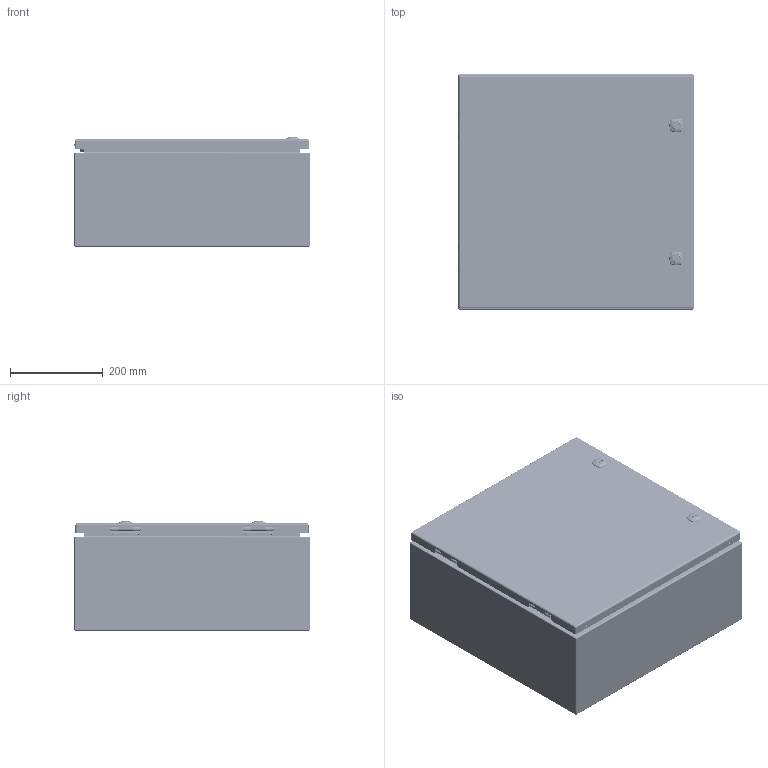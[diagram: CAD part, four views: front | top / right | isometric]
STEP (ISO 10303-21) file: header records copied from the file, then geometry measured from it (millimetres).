
FILE_DESCRIPTION(/* description */ ('5412ES 20" x 20" x 8" Assembly'),/* implementation_level */ '2;1');
FILE_NAME(/* name */ '5412ESB202008.stp',/* time_stamp */ '2024-01-18T09:46:41-05:00',/* author */ ('BoxCad'),/* organization */ (''),/* preprocessor_version */ 'ST-DEVELOPER v20',/* originating_system */ 'Autodesk Inventor 2024',/* authorisation */ '');
FILE_SCHEMA (('AUTOMOTIVE_DESIGN { 1 0 10303 214 3 1 1 }'));
Products named in the file (43): 5412ESB202008; 5412ESB202008B; 5412ESB202008B-P; STK-Q-16005; STUD_M6 x 16mm; 5412ESB202008C; 5412ESB202008C-P; 5412ESB202008G; STK-K-09800; STK-K-09800-2; STK-Q-33014; STK-Q-90398; STK-Q-40095; STK-Q-63410; STK-Q-16055; STK-Q-46020-20; STK-Q-07220-1; STK-Q-07220-2; STK-Q-07220-3; STK-Q-07220-4; STK-Q-07220-A; STK-Q-07220-B; STK-P-03820R; STK-S-00100; STK-K-12500; STK-Q-78111; STK-Q-78141; STK-Q-78120; STK-Q-78145; STK-Q-03200; STK-Q-78160; STK-Q-90390; STK-Q-78111-R; STK-Q-04050-08-1; STK-Q-04050-08-2; STK-Q-04050-08-P; STK-Q-04051-N; STK-A-01800; 5412ESB202008IPK; STK-Q-07610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
Assembly tree (73 placements, depth 4):
  5412ESB202008
    5412ESB202008B
      5412ESB202008B-P
      STK-Q-16005  x4
      STK-P-03820R
      STUD_M6 x 16mm
    5412ESB202008C
      5412ESB202008C-P
      5412ESB202008G
      STK-K-09800
        STK-Q-33014
        STK-Q-90398
        STK-Q-40095  x2
        STK-Q-63410  x2
      STK-K-09800-2
        STK-Q-33014
        STK-Q-90398
        STK-Q-40095  x2
        STK-Q-63410  x2
      STK-Q-16055  x4
      STK-Q-46020-20  x2
      STK-Q-07220-1
        STK-Q-07220-A
        STK-Q-07220-B
      STK-Q-07220-2
        STK-Q-07220-A
        STK-Q-07220-B
      STK-Q-07220-3
        STK-Q-07220-A
        STK-Q-07220-B
      STK-Q-07220-4
        STK-Q-07220-A
        STK-Q-07220-B
      STK-P-03820R
      STK-K-12500  x2
        STK-Q-78111
        STK-Q-78141
        STK-Q-78120
        STK-Q-78145
        STK-Q-03200
        STK-Q-78160
        STK-Q-90390
        STK-Q-78111-R
      STK-S-00100
    STK-Q-04050-08-1
      STK-Q-04050-08-P
      STK-Q-04051-N
    STK-Q-04050-08-2
      STK-Q-04050-08-P
      STK-Q-04051-N
    STK-A-01800
    5412ESB202008IPK
      STK-Q-07610  x4
      STK-Q-07310  x4
    881SP2020G
      881SP2020G-P
Bounding box: 508.07 x 508 x 236.47 mm (x, y, z)
Volume: 2139412.6 mm3; surface area: 2702542.1 mm2
Topology: 64 solids, 64 shells, 9692 faces, 25609 edges, 16056 vertices
Faces by surface type: bspline 3330, plane 2775, cylinder 2552, torus 679, sphere 220, cone 136
Full cylindrical faces by diameter (mm): 0 x1, 0.75 x9, 0.762 x9, 1 x8, 1.1 x8, 3.2 x4, 4.191 x32, 4.5 x4, 4.521 x8, 4.75 x2, 4.85 x16, 4.95 x4, 5 x4, 5.1 x30, 5.156 x4, 5.6 x2, 5.9 x25, 6.015 x32, 6.65 x4, 6.8 x4, 6.85 x8, 7.3 x2, 7.366 x4, 7.9 x8, 8 x12, 8.382 x2, 9.5 x4, 9.6 x2, 9.906 x4, 10 x2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
Entity records: 150114 total; most frequent: CARTESIAN_POINT 60496, ORIENTED_EDGE 20298, DIRECTION 15202, EDGE_CURVE 10149, VERTEX_POINT 6344, AXIS2_PLACEMENT_3D 5618, EDGE_LOOP 4211, FACE_OUTER_BOUND 3975
